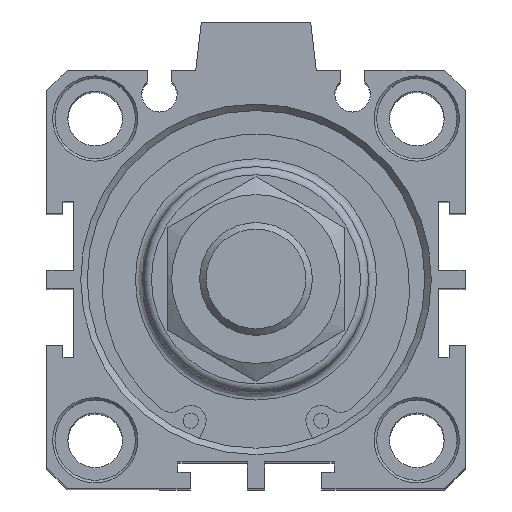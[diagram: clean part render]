
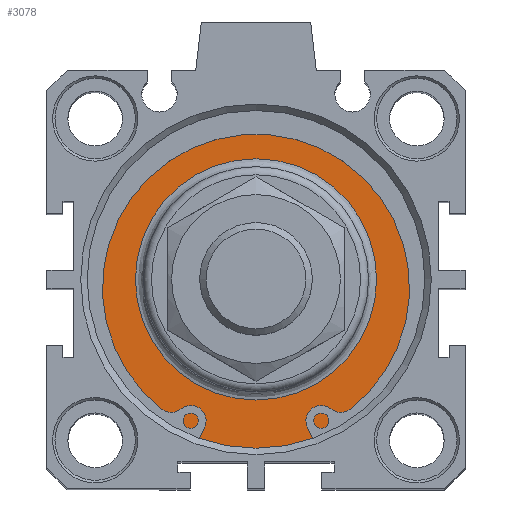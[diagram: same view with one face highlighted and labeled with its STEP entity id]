
A CAD part, top view. The second image highlights one B-rep face of the part: STEP entity #3078.
In plain terms, the highlighted planar face has unit normal (0, 0, 1).
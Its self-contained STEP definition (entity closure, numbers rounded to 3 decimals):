
#3027=CARTESIAN_POINT('',(-1.555,16.077,107.4));
#3028=VERTEX_POINT('',#3027);
#3029=CARTESIAN_POINT('',(-1.555,1.077,107.4));
#3030=DIRECTION('',(0.0,0.0,1.0));
#3031=DIRECTION('',(0.0,-1.0,0.0));
#3032=AXIS2_PLACEMENT_3D('',#3029,#3030,#3031);
#3033=CIRCLE('',#3032,15.);
#3034=EDGE_CURVE('',#3028,#3028,#3033,.T.);
#3059=CARTESIAN_POINT('',(-1.555,18.577,107.4));
#3060=DIRECTION('',(0.0,0.0,1.0));
#3061=DIRECTION('',(1.0,0.0,0.0));
#3062=AXIS2_PLACEMENT_3D('',#3059,#3060,#3061);
#3063=PLANE('',#3062);
#3064=CARTESIAN_POINT('',(-1.555,22.077,107.4));
#3065=VERTEX_POINT('',#3064);
#3066=CARTESIAN_POINT('',(-1.555,1.077,107.4));
#3067=DIRECTION('',(0.0,0.0,-1.0));
#3068=DIRECTION('',(0.0,1.0,0.0));
#3069=AXIS2_PLACEMENT_3D('',#3066,#3067,#3068);
#3070=CIRCLE('',#3069,21.);
#3071=EDGE_CURVE('',#3065,#3065,#3070,.T.);
#3072=ORIENTED_EDGE('',*,*,#3071,.F.);
#3073=EDGE_LOOP('',(#3072));
#3074=FACE_OUTER_BOUND('',#3073,.T.);
#3075=ORIENTED_EDGE('',*,*,#3034,.F.);
#3076=EDGE_LOOP('',(#3075));
#3077=FACE_BOUND('',#3076,.T.);
#3078=ADVANCED_FACE('',(#3074,#3077),#3063,.T.);
